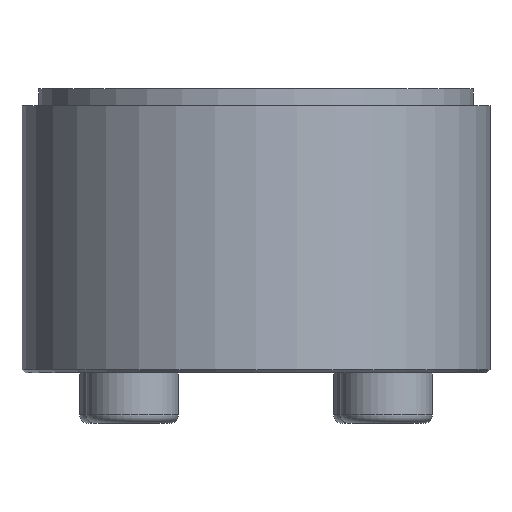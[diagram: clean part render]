
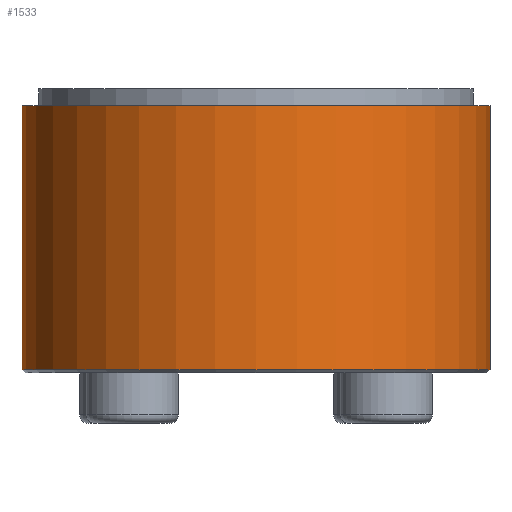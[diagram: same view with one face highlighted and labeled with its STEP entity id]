
A CAD part, front view. The second image highlights one B-rep face of the part: STEP entity #1533.
In plain terms, the highlighted cylindrical face has radius 14 mm (diameter 28 mm), a partial arc.
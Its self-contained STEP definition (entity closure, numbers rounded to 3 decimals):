
#8 = VECTOR ( 'NONE', #1524, 1000. ) ;
#17 = CARTESIAN_POINT ( 'NONE',  ( 14., 0., 0. ) ) ;
#29 = VECTOR ( 'NONE', #1755, 1000. ) ;
#58 = DIRECTION ( 'NONE',  ( 0., 0., 1. ) ) ;
#78 = CARTESIAN_POINT ( 'NONE',  ( 14., 0., -8.3 ) ) ;
#96 = LINE ( 'NONE', #927, #29 ) ;
#300 = ORIENTED_EDGE ( 'NONE', *, *, #416, .T. ) ;
#301 = AXIS2_PLACEMENT_3D ( 'NONE', #865, #311, #731 ) ;
#311 = DIRECTION ( 'NONE',  ( 0., 0., -1. ) ) ;
#327 = VERTEX_POINT ( 'NONE', #1776 ) ;
#401 = CIRCLE ( 'NONE', #554, 14. ) ;
#416 = EDGE_CURVE ( 'NONE', #853, #327, #401, .T. ) ;
#527 = EDGE_CURVE ( 'NONE', #1515, #1204, #1695, .T. ) ;
#554 = AXIS2_PLACEMENT_3D ( 'NONE', #1132, #710, #1006 ) ;
#587 = FACE_OUTER_BOUND ( 'NONE', #1742, .T. ) ;
#619 = ORIENTED_EDGE ( 'NONE', *, *, #1783, .T. ) ;
#626 = AXIS2_PLACEMENT_3D ( 'NONE', #1289, #58, #1024 ) ;
#644 = ORIENTED_EDGE ( 'NONE', *, *, #527, .T. ) ;
#710 = DIRECTION ( 'NONE',  ( 0., 0., -1. ) ) ;
#731 = DIRECTION ( 'NONE',  ( -1., 0., 0. ) ) ;
#853 = VERTEX_POINT ( 'NONE', #1236 ) ;
#865 = CARTESIAN_POINT ( 'NONE',  ( 0., 0., 0. ) ) ;
#927 = CARTESIAN_POINT ( 'NONE',  ( -14., 0., 0. ) ) ;
#1002 = CARTESIAN_POINT ( 'NONE',  ( -14., 0., -8.3 ) ) ;
#1006 = DIRECTION ( 'NONE',  ( 1., 0., 0. ) ) ;
#1024 = DIRECTION ( 'NONE',  ( -1., 0., 0. ) ) ;
#1132 = CARTESIAN_POINT ( 'NONE',  ( 0., 0., 7.5 ) ) ;
#1204 = VERTEX_POINT ( 'NONE', #78 ) ;
#1236 = CARTESIAN_POINT ( 'NONE',  ( 14., 0., 7.5 ) ) ;
#1289 = CARTESIAN_POINT ( 'NONE',  ( 0., 0., -8.3 ) ) ;
#1304 = ORIENTED_EDGE ( 'NONE', *, *, #1406, .F. ) ;
#1406 = EDGE_CURVE ( 'NONE', #853, #1204, #1447, .T. ) ;
#1447 = LINE ( 'NONE', #17, #8 ) ;
#1515 = VERTEX_POINT ( 'NONE', #1002 ) ;
#1524 = DIRECTION ( 'NONE',  ( 0., 0., -1. ) ) ;
#1533 = ADVANCED_FACE ( 'NONE', ( #587 ), #1638, .T. ) ;
#1638 = CYLINDRICAL_SURFACE ( 'NONE', #301, 14. ) ;
#1695 = CIRCLE ( 'NONE', #626, 14. ) ;
#1742 = EDGE_LOOP ( 'NONE', ( #1304, #300, #619, #644 ) ) ;
#1755 = DIRECTION ( 'NONE',  ( 0., 0., -1. ) ) ;
#1776 = CARTESIAN_POINT ( 'NONE',  ( -14., 0., 7.5 ) ) ;
#1783 = EDGE_CURVE ( 'NONE', #327, #1515, #96, .T. ) ;
